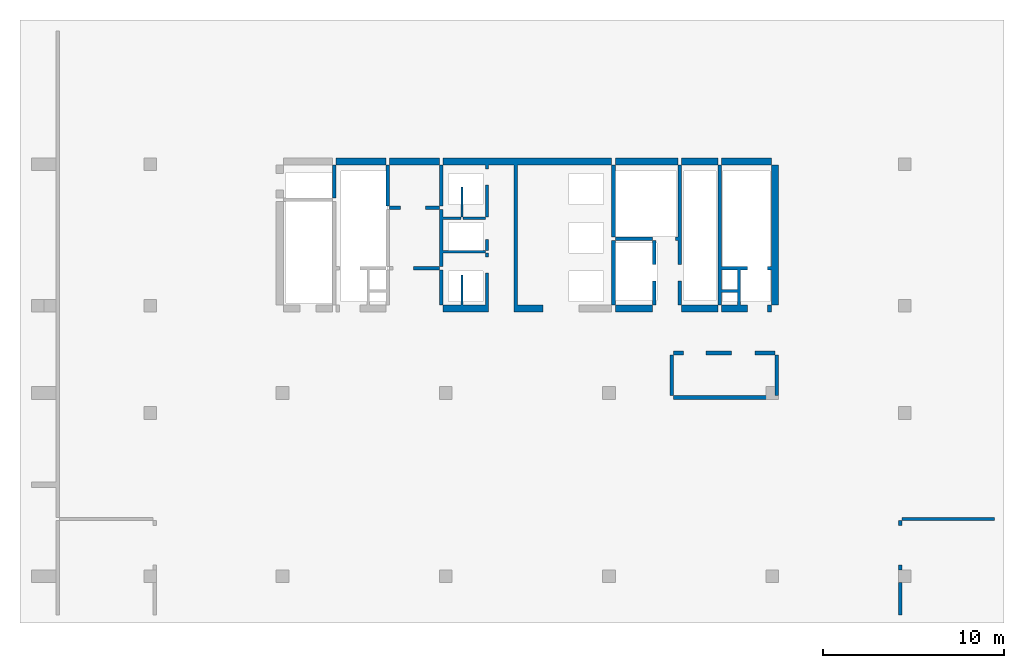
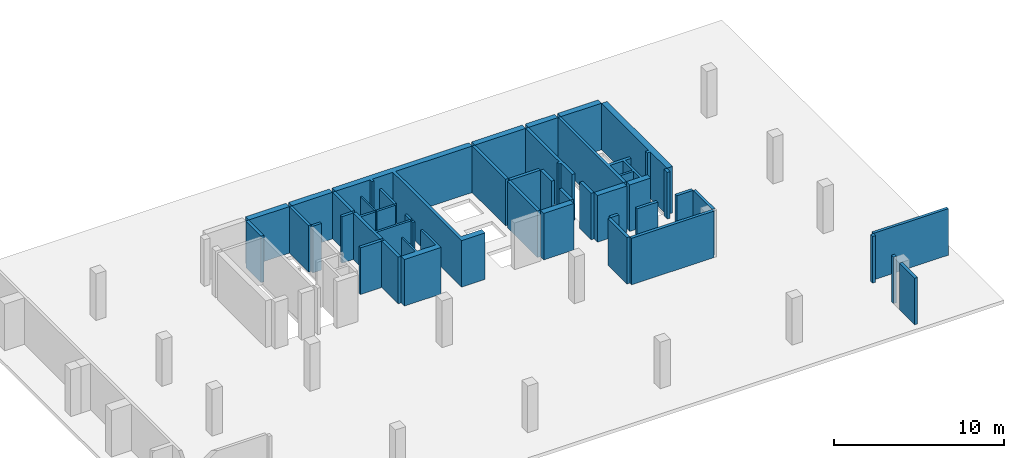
# One storey, part 2 of 2: 42 walls.
"""IFC4 building model written with IfcOpenShell, lengths in millimetres."""

from ifc_helpers import new_model, si_unit, frame, origin, place, context, project, spatial, triangles, element, save


model = new_model("IFC4")

# Units and contexts
model_context = context("Model", 3, precision=0.001, world=origin())
ifc_project = project(units=[si_unit("LENGTHUNIT", "METRE", prefix="MILLI"), si_unit("AREAUNIT", "SQUARE_METRE"), si_unit("VOLUMEUNIT", "CUBIC_METRE")], contexts=[model_context])

# Site, building, storey
site_placement = place(None, origin())
site = spatial("IfcSite", under=ifc_project, at=site_placement, Name="Site", CompositionType="ELEMENT")
building_placement = place(site_placement, origin())
building = spatial("IfcBuilding", under=site, at=building_placement, Name="INNOCEAN", CompositionType="ELEMENT")
storey_placement = place(building_placement, frame((0.0, 0.0, -23400.0)))
storey = spatial("IfcBuildingStorey", under=building, at=storey_placement, Name="B6", CompositionType="ELEMENT", Elevation=-23400.0)

# Walls
wall_1_placement = place(storey_placement, origin())
element("IfcWall", 1, at=wall_1_placement, inside=storey, Name="B6_Walls_B6_015", context=model_context, shape_type="Tessellation", body=[
    triangles([(16429.3, 23222.2, 0.0), (16429.3, 25025.8, 0.0), (16429.3, 25025.8, 3350.0), (16429.3, 23222.2, 3350.0), (16226.2, 23222.2, 0.0), (16226.2, 23222.2, 3350.0), (16226.2, 25025.8, 0.0), (16226.2, 25025.8, 3350.0)], [[1, 2, 3], [1, 3, 4], [5, 1, 4], [5, 4, 6], [7, 5, 6], [7, 6, 8], [2, 7, 8], [2, 8, 3], [7, 2, 1], [7, 1, 5], [3, 8, 4], [4, 8, 6]], closed=True),
])
wall_2_placement = place(storey_placement, origin())
element("IfcWall", 2, at=wall_2_placement, inside=storey, Name="B6_Walls_B6_018", context=model_context, shape_type="Tessellation", body=[
    triangles([(19183.7, 25419.5, 0.0), (16429.3, 25419.5, 0.0), (16429.3, 25419.5, 3350.0), (19183.7, 25419.5, 3350.0), (19183.7, 25025.8, 0.0), (19183.7, 25025.8, 3350.0), (16429.3, 25025.8, 0.0), (16429.3, 25025.8, 3350.0)], [[1, 2, 3], [1, 3, 4], [5, 1, 4], [5, 4, 6], [7, 5, 6], [7, 6, 8], [2, 7, 8], [2, 8, 3], [2, 1, 5], [2, 5, 7], [4, 3, 6], [6, 3, 8]], closed=True),
])
wall_3_placement = place(storey_placement, origin())
element("IfcWall", 3, at=wall_3_placement, inside=storey, Name="B6_Walls_B6_019", context=model_context, shape_type="Tessellation", body=[
    triangles([(23423.2, 18967.3, 0.0), (23321.7, 18967.3, 0.0), (23321.7, 18967.3, 3350.0), (23423.2, 18967.3, 3350.0), (23423.2, 18965.0, 0.0), (23423.2, 18965.0, 3350.0), (23425.0, 18965.0, 0.0), (23425.0, 18965.0, 3350.0), (23425.0, 17316.1, 3350.0), (23425.0, 17316.1, 0.0), (24679.9, 17316.1, 0.0), (24679.9, 17316.1, 3350.0), (24679.9, 19068.9, 0.0), (24679.9, 19068.9, 3350.0), (24680.0, 19068.9, 3350.0), (24680.0, 19068.9, 0.0), (24680.0, 19070.0, 0.0), (24680.0, 19070.0, 3350.0), (24830.0, 19070.0, 0.0), (24830.0, 19070.0, 3350.0), (24830.0, 19068.9, 0.0), (24830.0, 19068.9, 3350.0), (24832.2, 19068.9, 3350.0), (24832.2, 19068.9, 0.0), (24832.2, 17316.1, 0.0), (24832.2, 17316.1, 3350.0), (24832.2, 16922.4, 0.0), (24832.2, 16922.4, 3350.0), (22331.6, 16922.4, 0.0), (22331.6, 16922.4, 3350.0), (22331.6, 17316.1, 0.0), (22331.6, 17316.1, 3350.0), (23320.0, 17316.1, 0.0), (23320.0, 17316.1, 3350.0), (23320.0, 18965.0, 3350.0), (23320.0, 18965.0, 0.0), (23321.7, 18965.0, 0.0), (23321.7, 18965.0, 3350.0)], [[1, 2, 3], [1, 3, 4], [5, 1, 4], [5, 4, 6], [7, 5, 6], [7, 6, 8], [7, 8, 9], [10, 7, 9], [11, 10, 9], [11, 9, 12], [13, 11, 12], [13, 12, 14], [13, 14, 15], [16, 13, 15], [17, 16, 15], [17, 15, 18], [19, 17, 18], [19, 18, 20], [21, 19, 20], [21, 20, 22], [21, 22, 23], [24, 21, 23], [25, 24, 23], [25, 23, 26], [27, 25, 26], [27, 26, 28], [29, 27, 28], [29, 28, 30], [31, 29, 30], [31, 30, 32], [33, 31, 32], [33, 32, 34], [33, 34, 35], [36, 33, 35], [37, 36, 35], [37, 35, 38], [2, 37, 38], [2, 38, 3], [11, 25, 27], [10, 11, 27], [21, 24, 25], [21, 25, 11], [16, 19, 21], [16, 21, 11], [13, 16, 11], [17, 19, 16], [29, 10, 27], [29, 33, 10], [31, 33, 29], [5, 7, 10], [5, 10, 33], [37, 1, 5], [37, 5, 33], [36, 37, 33], [2, 1, 37], [26, 12, 28], [12, 9, 28], [23, 22, 26], [26, 22, 12], [20, 15, 22], [22, 15, 12], [15, 14, 12], [20, 18, 15], [9, 30, 28], [34, 30, 9], [34, 32, 30], [8, 6, 9], [9, 6, 34], [4, 38, 6], [6, 38, 34], [38, 35, 34], [4, 3, 38]], closed=True),
])
wall_4_placement = place(storey_placement, origin())
element("IfcWall", 4, at=wall_4_placement, inside=storey, Name="B6_Walls_B6_020", context=model_context, shape_type="Tessellation", body=[
    triangles([(22331.6, 19246.7, 0.0), (22331.6, 19246.7, 3350.0), (22331.6, 17316.1, 3350.0), (22331.6, 17316.1, 0.0), (22128.5, 17316.1, 0.0), (22128.5, 17316.1, 3350.0), (22128.5, 19246.7, 3350.0), (22128.5, 19246.7, 0.0)], [[1, 2, 3], [4, 1, 3], [5, 4, 3], [5, 3, 6], [5, 6, 7], [8, 5, 7], [1, 8, 7], [1, 7, 2], [8, 1, 4], [8, 4, 5], [2, 7, 3], [3, 7, 6]], closed=True),
])
wall_5_placement = place(storey_placement, origin())
element("IfcWall", 5, at=wall_5_placement, inside=storey, Name="B6_Walls_B6_022", context=model_context, shape_type="Tessellation", body=[
    triangles([(22128.5, 19246.7, 0.0), (22128.5, 19449.9, 0.0), (22128.5, 19449.9, 3350.0), (22128.5, 19246.7, 3350.0), (20694.2, 19246.7, 0.0), (20694.2, 19246.7, 3350.0), (20694.2, 19449.9, 0.0), (20694.2, 19449.9, 3350.0)], [[1, 2, 3], [1, 3, 4], [5, 1, 4], [5, 4, 6], [7, 5, 6], [7, 6, 8], [2, 7, 8], [2, 8, 3], [7, 2, 1], [7, 1, 5], [3, 8, 4], [4, 8, 6]], closed=True),
])
wall_6_placement = place(storey_placement, origin())
element("IfcWall", 6, at=wall_6_placement, inside=storey, Name="B6_Walls_B6_023", context=model_context, shape_type="Tessellation", body=[
    triangles([(24679.9, 19970.7, 0.0), (24832.2, 19970.7, 0.0), (24832.2, 19970.7, 3350.0), (24679.9, 19970.7, 3350.0), (24679.9, 20173.9, 0.0), (24679.9, 20173.9, 3350.0), (24832.2, 20173.9, 0.0), (24832.2, 20173.9, 3350.0)], [[1, 2, 3], [1, 3, 4], [5, 1, 4], [5, 4, 6], [7, 5, 6], [7, 6, 8], [2, 7, 8], [2, 8, 3], [5, 2, 1], [5, 7, 2], [3, 6, 4], [8, 6, 3]], closed=True),
])
wall_7_placement = place(storey_placement, origin())
element("IfcWall", 7, at=wall_7_placement, inside=storey, Name="B6_Walls_B6_024", context=model_context, shape_type="Tessellation", body=[
    triangles([(22128.5, 22574.4, 0.0), (22128.5, 19449.9, 0.0), (22128.5, 19449.9, 3350.0), (22128.5, 22574.4, 3350.0), (22331.6, 22574.4, 0.0), (22331.6, 22574.4, 3350.0), (22331.6, 22168.0, 0.0), (22331.6, 22168.0, 3350.0), (23321.7, 22168.0, 3350.0), (23321.7, 22168.0, 0.0), (23321.7, 22015.6, 0.0), (23321.7, 22015.6, 3350.0), (22331.6, 22015.6, 3350.0), (22331.6, 22015.6, 0.0), (22331.6, 20326.3, 0.0), (22331.6, 20326.3, 3350.0), (24679.9, 20326.3, 0.0), (24679.9, 20326.3, 3350.0), (24679.9, 20173.9, 3350.0), (24679.9, 20173.9, 0.0), (22331.6, 20173.9, 0.0), (22331.6, 20173.9, 3350.0), (22331.6, 19449.9, 3350.0), (22331.6, 19449.9, 0.0)], [[1, 2, 3], [1, 3, 4], [5, 1, 4], [5, 4, 6], [7, 5, 6], [7, 6, 8], [7, 8, 9], [10, 7, 9], [11, 10, 9], [11, 9, 12], [11, 12, 13], [14, 11, 13], [15, 14, 13], [15, 13, 16], [17, 15, 16], [17, 16, 18], [17, 18, 19], [20, 17, 19], [21, 20, 19], [21, 19, 22], [21, 22, 23], [24, 21, 23], [2, 24, 23], [2, 23, 3], [21, 24, 2], [15, 17, 20], [15, 20, 21], [15, 21, 2], [14, 10, 11], [7, 10, 14], [1, 5, 7], [1, 14, 15], [1, 7, 14], [2, 1, 15], [23, 22, 3], [18, 16, 19], [19, 16, 22], [22, 16, 3], [9, 13, 12], [9, 8, 13], [6, 4, 8], [13, 4, 16], [8, 4, 13], [4, 3, 16]], closed=True),
])
wall_8_placement = place(storey_placement, origin())
element("IfcWall", 8, at=wall_8_placement, inside=storey, Name="B6_Walls_B6_025", context=model_context, shape_type="Tessellation", body=[
    triangles([(24679.9, 20326.3, 0.0), (24832.2, 20326.3, 0.0), (24832.2, 20326.3, 3350.0), (24679.9, 20326.3, 3350.0), (24679.9, 20923.3, 0.0), (24679.9, 20923.3, 3350.0), (24832.2, 20923.3, 0.0), (24832.2, 20923.3, 3350.0)], [[1, 2, 3], [1, 3, 4], [5, 1, 4], [5, 4, 6], [7, 5, 6], [7, 6, 8], [2, 7, 8], [2, 8, 3], [5, 2, 1], [5, 7, 2], [3, 6, 4], [8, 6, 3]], closed=True),
])
wall_9_placement = place(storey_placement, origin())
element("IfcWall", 9, at=wall_9_placement, inside=storey, Name="B6_Walls_B6_027", context=model_context, shape_type="Tessellation", body=[
    triangles([(23423.2, 22168.0, 0.0), (23423.2, 22168.0, 3350.0), (24679.9, 22168.0, 3350.0), (24679.9, 22168.0, 0.0), (24679.9, 22015.6, 0.0), (24679.9, 22015.6, 3350.0), (23423.2, 22015.6, 3350.0), (23423.2, 22015.6, 0.0)], [[1, 2, 3], [4, 1, 3], [5, 4, 3], [5, 3, 6], [5, 6, 7], [8, 5, 7], [1, 8, 7], [1, 7, 2], [1, 4, 5], [1, 5, 8], [3, 2, 6], [6, 2, 7]], closed=True),
])
wall_10_placement = place(storey_placement, origin())
element("IfcWall", 10, at=wall_10_placement, inside=storey, Name="B6_Walls_B6_028", context=model_context, shape_type="Tessellation", body=[
    triangles([(19970.7, 22574.4, 0.0), (19970.7, 22765.0, 0.0), (19970.7, 22765.0, 3350.0), (19970.7, 22574.4, 3350.0), (19374.1, 22574.4, 0.0), (19374.1, 22574.4, 3350.0), (19374.1, 22765.0, 0.0), (19374.1, 22765.0, 3350.0)], [[1, 2, 3], [1, 3, 4], [5, 1, 4], [5, 4, 6], [7, 5, 6], [7, 6, 8], [2, 7, 8], [2, 8, 3], [7, 2, 1], [7, 1, 5], [3, 8, 4], [4, 8, 6]], closed=True),
])
wall_11_placement = place(storey_placement, origin())
element("IfcWall", 11, at=wall_11_placement, inside=storey, Name="B6_Walls_B6_029", context=model_context, shape_type="Tessellation", body=[
    triangles([(22128.5, 22574.4, 0.0), (22128.5, 22765.0, 0.0), (22128.5, 22765.0, 3350.0), (22128.5, 22574.4, 3350.0), (21366.9, 22574.4, 0.0), (21366.9, 22574.4, 3350.0), (21366.9, 22765.0, 0.0), (21366.9, 22765.0, 3350.0)], [[1, 2, 3], [1, 3, 4], [5, 1, 4], [5, 4, 6], [7, 5, 6], [7, 6, 8], [2, 7, 8], [2, 8, 3], [7, 2, 1], [7, 1, 5], [3, 8, 4], [4, 8, 6]], closed=True),
])
wall_12_placement = place(storey_placement, origin())
element("IfcWall", 12, at=wall_12_placement, inside=storey, Name="B6_Walls_B6_030", context=model_context, shape_type="Tessellation", body=[
    triangles([(23423.2, 23819.2, 0.0), (23423.2, 23819.2, 3350.0), (23423.2, 22168.0, 3350.0), (23423.2, 22168.0, 0.0), (23321.7, 22168.0, 0.0), (23321.7, 22168.0, 3350.0), (23321.7, 23819.2, 3350.0), (23321.7, 23819.2, 0.0)], [[1, 2, 3], [4, 1, 3], [5, 4, 3], [5, 3, 6], [5, 6, 7], [8, 5, 7], [1, 8, 7], [1, 7, 2], [8, 1, 4], [8, 4, 5], [2, 7, 3], [3, 7, 6]], closed=True),
])
wall_13_placement = place(storey_placement, origin())
element("IfcWall", 13, at=wall_13_placement, inside=storey, Name="B6_Walls_B6_031", context=model_context, shape_type="Tessellation", body=[
    triangles([(19374.1, 22765.0, 0.0), (19374.1, 25025.8, 0.0), (19374.1, 25025.8, 3350.0), (19374.1, 22765.0, 3350.0), (19183.7, 22765.0, 0.0), (19183.7, 22765.0, 3350.0), (19183.7, 25025.8, 0.0), (19183.7, 25025.8, 3350.0)], [[1, 2, 3], [1, 3, 4], [5, 1, 4], [5, 4, 6], [7, 5, 6], [7, 6, 8], [2, 7, 8], [2, 8, 3], [7, 2, 1], [7, 1, 5], [3, 8, 4], [4, 8, 6]], closed=True),
])
wall_14_placement = place(storey_placement, origin())
element("IfcWall", 14, at=wall_14_placement, inside=storey, Name="B6_Walls_B6_032", context=model_context, shape_type="Tessellation", body=[
    triangles([(22331.6, 22765.0, 0.0), (22331.6, 25025.8, 0.0), (22331.6, 25025.8, 3350.0), (22331.6, 22765.0, 3350.0), (22128.5, 22765.0, 0.0), (22128.5, 22765.0, 3350.0), (22128.5, 25025.8, 0.0), (22128.5, 25025.8, 3350.0)], [[1, 2, 3], [1, 3, 4], [5, 1, 4], [5, 4, 6], [7, 5, 6], [7, 6, 8], [2, 7, 8], [2, 8, 3], [7, 2, 1], [7, 1, 5], [3, 8, 4], [4, 8, 6]], closed=True),
])
wall_15_placement = place(storey_placement, origin())
element("IfcWall", 15, at=wall_15_placement, inside=storey, Name="B6_Walls_B6_033", context=model_context, shape_type="Tessellation", body=[
    triangles([(24679.9, 24822.6, 0.0), (24832.2, 24822.6, 0.0), (24832.2, 24822.6, 3350.0), (24679.9, 24822.6, 3350.0), (24679.9, 25025.8, 0.0), (24679.9, 25025.8, 3350.0), (22331.6, 25025.8, 0.0), (22331.6, 25025.8, 3350.0), (22331.6, 25419.5, 0.0), (22331.6, 25419.5, 3350.0), (31623.1, 25419.5, 0.0), (31623.1, 25419.5, 3350.0), (31623.1, 25025.8, 0.0), (31623.1, 25025.8, 3350.0), (26431.5, 25025.8, 3350.0), (26431.5, 25025.8, 0.0), (26431.5, 17316.1, 0.0), (26431.5, 17316.1, 3350.0), (27827.8, 17316.1, 0.0), (27827.8, 17316.1, 3350.0), (27827.8, 17315.0, 0.0), (27827.8, 17315.0, 3350.0), (27830.0, 17315.0, 3350.0), (27830.0, 17315.0, 0.0), (27830.0, 16920.0, 0.0), (27830.0, 16920.0, 3350.0), (26230.0, 16920.0, 0.0), (26230.0, 16920.0, 3350.0), (26230.0, 16922.4, 0.0), (26230.0, 16922.4, 3350.0), (26228.4, 16922.4, 3350.0), (26228.4, 16922.4, 0.0), (26228.4, 17316.1, 0.0), (26228.4, 17316.1, 3350.0), (26228.4, 25025.8, 0.0), (26228.4, 25025.8, 3350.0), (24832.2, 25025.8, 0.0), (24832.2, 25025.8, 3350.0)], [[1, 2, 3], [1, 3, 4], [5, 1, 4], [5, 4, 6], [7, 5, 6], [7, 6, 8], [9, 7, 8], [9, 8, 10], [11, 9, 10], [11, 10, 12], [13, 11, 12], [13, 12, 14], [15, 13, 14], [16, 13, 15], [17, 16, 15], [17, 15, 18], [19, 17, 18], [19, 18, 20], [21, 19, 20], [21, 20, 22], [21, 22, 23], [24, 21, 23], [25, 24, 23], [25, 23, 26], [27, 25, 26], [27, 26, 28], [29, 27, 28], [29, 28, 30], [29, 30, 31], [32, 29, 31], [33, 32, 31], [33, 31, 34], [35, 33, 34], [35, 34, 36], [37, 35, 36], [37, 36, 38], [2, 37, 38], [2, 38, 3], [21, 24, 25], [17, 19, 21], [17, 25, 27], [17, 27, 29], [17, 21, 25], [33, 29, 32], [33, 17, 29], [16, 11, 13], [35, 16, 17], [35, 17, 33], [37, 2, 1], [5, 37, 1], [9, 5, 7], [9, 11, 16], [9, 16, 35], [9, 35, 37], [9, 37, 5], [23, 22, 26], [20, 18, 22], [26, 18, 28], [28, 18, 30], [22, 18, 26], [30, 34, 31], [18, 34, 30], [12, 15, 14], [15, 36, 18], [18, 36, 34], [3, 38, 4], [38, 6, 4], [6, 10, 8], [12, 10, 15], [15, 10, 36], [36, 10, 38], [38, 10, 6]], closed=True),
])
wall_16_placement = place(storey_placement, origin())
element("IfcWall", 16, at=wall_16_placement, inside=storey, Name="B6_Walls_B6_034", context=model_context, shape_type="Tessellation", body=[
    triangles([(22128.5, 25025.8, 0.0), (22128.5, 25419.5, 0.0), (22128.5, 25419.5, 3350.0), (22128.5, 25025.8, 3350.0), (19374.1, 25025.8, 0.0), (19374.1, 25025.8, 3350.0), (19374.1, 25419.5, 0.0), (19374.1, 25419.5, 3350.0)], [[1, 2, 3], [1, 3, 4], [5, 1, 4], [5, 4, 6], [7, 5, 6], [7, 6, 8], [2, 7, 8], [2, 8, 3], [7, 2, 1], [7, 1, 5], [3, 8, 4], [4, 8, 6]], closed=True),
])
wall_17_placement = place(storey_placement, origin())
element("IfcWall", 17, at=wall_17_placement, inside=storey, Name="B6_Walls_B6_035", context=model_context, shape_type="Tessellation", body=[
    triangles([(35024.8, 12324.5, 0.0), (35024.8, 14572.6, 0.0), (35024.8, 14572.6, 3350.0), (35024.8, 12324.5, 3350.0), (34821.8, 12324.5, 0.0), (34821.8, 12324.5, 3350.0), (34821.8, 14572.6, 0.0), (34821.8, 14572.6, 3350.0)], [[1, 2, 3], [1, 3, 4], [5, 1, 4], [5, 4, 6], [7, 5, 6], [7, 6, 8], [2, 7, 8], [2, 8, 3], [7, 2, 1], [7, 1, 5], [3, 8, 4], [4, 8, 6]], closed=True),
])
wall_18_placement = place(storey_placement, origin())
element("IfcWall", 18, at=wall_18_placement, inside=storey, Name="B6_Walls_B6_036", context=model_context, shape_type="Tessellation", body=[
    triangles([(35570.7, 14775.8, 0.0), (35024.8, 14775.8, 0.0), (35024.8, 14775.8, 3350.0), (35570.7, 14775.8, 3350.0), (35570.7, 14572.6, 3350.0), (35570.7, 14572.6, 0.0), (35024.8, 14572.6, 0.0), (35024.8, 14572.6, 3350.0)], [[1, 2, 3], [1, 3, 4], [1, 4, 5], [6, 1, 5], [7, 6, 5], [7, 5, 8], [7, 8, 3], [2, 7, 3], [2, 1, 6], [2, 6, 7], [4, 3, 5], [5, 3, 8]], closed=True),
])
wall_19_placement = place(storey_placement, origin())
element("IfcWall", 19, at=wall_19_placement, inside=storey, Name="B6_Walls_B6_037", context=model_context, shape_type="Tessellation", body=[
    triangles([(38225.0, 14575.0, 0.0), (38225.0, 14775.0, 0.0), (38225.0, 14775.0, 3350.0), (38225.0, 14575.0, 3350.0), (38223.5, 14575.0, 0.0), (38223.5, 14575.0, 3350.0), (38223.5, 14572.6, 0.0), (38223.5, 14572.6, 3350.0), (36814.6, 14572.6, 0.0), (36814.6, 14572.6, 3350.0), (36814.6, 14775.8, 3350.0), (36814.6, 14775.8, 0.0), (38223.5, 14775.8, 0.0), (38223.5, 14775.8, 3350.0), (38223.5, 14775.0, 0.0), (38223.5, 14775.0, 3350.0)], [[1, 2, 3], [1, 3, 4], [5, 1, 4], [5, 4, 6], [7, 5, 6], [7, 6, 8], [9, 7, 8], [9, 8, 10], [9, 10, 11], [12, 9, 11], [13, 12, 11], [13, 11, 14], [15, 13, 14], [15, 14, 16], [2, 15, 16], [2, 16, 3], [15, 2, 1], [15, 1, 5], [9, 5, 7], [12, 13, 15], [12, 15, 5], [12, 5, 9], [3, 16, 4], [4, 16, 6], [6, 10, 8], [14, 11, 16], [16, 11, 6], [6, 11, 10]], closed=True),
])
wall_20_placement = place(storey_placement, origin())
element("IfcWall", 20, at=wall_20_placement, inside=storey, Name="B6_Walls_B6_039", context=model_context, shape_type="Tessellation", body=[
    triangles([(33869.8, 16922.4, 0.0), (33869.8, 17316.1, 0.0), (33869.8, 17316.1, 3350.0), (33869.8, 16922.4, 3350.0), (31826.2, 16922.4, 0.0), (31826.2, 16922.4, 3350.0), (31826.2, 17316.1, 0.0), (31826.2, 17316.1, 3350.0)], [[1, 2, 3], [1, 3, 4], [5, 1, 4], [5, 4, 6], [7, 5, 6], [7, 6, 8], [2, 7, 8], [2, 8, 3], [7, 2, 1], [7, 1, 5], [3, 8, 4], [4, 8, 6]], closed=True),
])
wall_21_placement = place(storey_placement, origin())
element("IfcWall", 21, at=wall_21_placement, inside=storey, Name="B6_Walls_B6_040", context=model_context, shape_type="Tessellation", body=[
    triangles([(37474.6, 16922.4, 0.0), (37474.6, 17316.1, 0.0), (37474.6, 17316.1, 3350.0), (37474.6, 16922.4, 3350.0), (35469.1, 16922.4, 0.0), (35469.1, 16922.4, 3350.0), (35469.1, 17316.1, 0.0), (35469.1, 17316.1, 3350.0)], [[1, 2, 3], [1, 3, 4], [5, 1, 4], [5, 4, 6], [7, 5, 6], [7, 6, 8], [2, 7, 8], [2, 8, 3], [7, 2, 1], [7, 1, 5], [3, 8, 4], [4, 8, 6]], closed=True),
])
wall_22_placement = place(storey_placement, origin())
element("IfcWall", 22, at=wall_22_placement, inside=storey, Name="B6_Walls_B6_041", context=model_context, shape_type="Tessellation", body=[
    triangles([(34072.9, 18649.7, 0.0), (33869.8, 18649.7, 0.0), (33869.8, 18649.7, 3350.0), (34072.9, 18649.7, 3350.0), (34072.9, 17316.1, 0.0), (34072.9, 17316.1, 3350.0), (33869.8, 17316.1, 0.0), (33869.8, 17316.1, 3350.0)], [[1, 2, 3], [1, 3, 4], [5, 1, 4], [5, 4, 6], [7, 5, 6], [7, 6, 8], [2, 7, 8], [2, 8, 3], [2, 1, 5], [2, 5, 7], [4, 3, 6], [6, 3, 8]], closed=True),
])
wall_23_placement = place(storey_placement, origin())
element("IfcWall", 23, at=wall_23_placement, inside=storey, Name="B6_Walls_B6_042", context=model_context, shape_type="Tessellation", body=[
    triangles([(35469.1, 17316.1, 0.0), (35469.1, 18649.7, 0.0), (35469.1, 18649.7, 3350.0), (35469.1, 17316.1, 3350.0), (35266.0, 17316.1, 0.0), (35266.0, 17316.1, 3350.0), (35266.0, 18649.7, 0.0), (35266.0, 18649.7, 3350.0)], [[1, 2, 3], [1, 3, 4], [5, 1, 4], [5, 4, 6], [7, 5, 6], [7, 6, 8], [2, 7, 8], [2, 8, 3], [7, 2, 1], [7, 1, 5], [3, 8, 4], [4, 8, 6]], closed=True),
])
wall_24_placement = place(storey_placement, origin())
element("IfcWall", 24, at=wall_24_placement, inside=storey, Name="B6_Walls_B6_043", context=model_context, shape_type="Tessellation", body=[
    triangles([(37474.6, 19449.9, 0.0), (37474.6, 17316.1, 0.0), (37474.6, 17316.1, 3350.0), (37474.6, 19449.9, 3350.0), (37665.0, 17316.1, 0.0), (37665.0, 17316.1, 3350.0), (37665.0, 16922.4, 0.0), (37665.0, 16922.4, 3350.0), (39099.4, 16922.4, 0.0), (39099.4, 16922.4, 3350.0), (39099.4, 17316.1, 0.0), (39099.4, 17316.1, 3350.0), (38720.0, 17316.1, 0.0), (38720.0, 17316.1, 3350.0), (38720.0, 19245.0, 0.0), (38720.0, 19245.0, 3350.0), (39100.0, 19245.0, 0.0), (39100.0, 19245.0, 3350.0), (39100.0, 19450.0, 0.0), (39100.0, 19450.0, 3350.0), (37665.0, 19450.0, 0.0), (37665.0, 19450.0, 3350.0), (37665.0, 25025.8, 0.0), (37665.0, 25025.8, 3350.0), (37474.6, 25025.8, 0.0), (37474.6, 25025.8, 3350.0), (37665.0, 18014.7, 0.0), (37665.0, 18014.7, 3350.0), (38565.0, 18014.7, 0.0), (38565.0, 18014.7, 3350.0), (38565.0, 17316.1, 0.0), (38565.0, 17316.1, 3350.0), (37665.0, 18167.1, 0.0), (37665.0, 18167.1, 3350.0), (38565.0, 18167.1, 3350.0), (38565.0, 18167.1, 0.0), (37665.0, 19245.0, 0.0), (37665.0, 19245.0, 3350.0), (38565.0, 19245.0, 0.0), (38565.0, 19245.0, 3350.0)], [[1, 2, 3], [1, 3, 4], [2, 5, 6], [2, 6, 3], [5, 7, 8], [5, 8, 6], [7, 9, 10], [7, 10, 8], [9, 11, 12], [9, 12, 10], [11, 13, 14], [11, 14, 12], [13, 15, 16], [13, 16, 14], [15, 17, 18], [15, 18, 16], [19, 20, 18], [17, 19, 18], [19, 21, 22], [19, 22, 20], [21, 23, 24], [21, 24, 22], [23, 25, 26], [23, 26, 24], [25, 1, 4], [25, 4, 26], [5, 27, 28], [5, 28, 6], [29, 30, 28], [27, 29, 28], [29, 31, 32], [29, 32, 30], [5, 6, 32], [31, 5, 32], [33, 34, 35], [36, 33, 35], [33, 37, 38], [33, 38, 34], [39, 40, 38], [37, 39, 38], [39, 36, 35], [39, 35, 40], [13, 11, 9], [31, 13, 9], [7, 31, 9], [29, 13, 31], [5, 31, 7], [27, 5, 2], [33, 29, 27], [33, 36, 29], [33, 27, 2], [15, 19, 17], [39, 15, 36], [39, 19, 15], [21, 39, 37], [21, 19, 39], [1, 37, 33], [1, 21, 37], [1, 33, 2], [25, 23, 21], [25, 21, 1], [15, 13, 29], [15, 29, 36], [12, 14, 10], [14, 32, 10], [32, 8, 10], [14, 30, 32], [32, 6, 8], [6, 28, 3], [30, 34, 28], [35, 34, 30], [28, 34, 3], [20, 16, 18], [16, 40, 35], [20, 40, 16], [40, 22, 38], [20, 22, 40], [38, 4, 34], [22, 4, 38], [34, 4, 3], [24, 26, 22], [22, 26, 4], [14, 16, 30], [30, 16, 35]], closed=True),
])
wall_25_placement = place(storey_placement, origin())
element("IfcWall", 25, at=wall_25_placement, inside=storey, Name="B6_Walls_B6_044", context=model_context, shape_type="Tessellation", body=[
    triangles([(31826.2, 20872.5, 0.0), (31623.1, 20872.5, 0.0), (31623.1, 20872.5, 3350.0), (31826.2, 20872.5, 3350.0), (31826.2, 17316.1, 3350.0), (31826.2, 17316.1, 0.0), (31623.1, 17316.1, 0.0), (31623.1, 17316.1, 3350.0)], [[1, 2, 3], [1, 3, 4], [5, 1, 4], [6, 1, 5], [7, 6, 5], [7, 5, 8], [3, 7, 8], [2, 7, 3], [2, 1, 6], [2, 6, 7], [4, 3, 5], [5, 3, 8]], closed=True),
])
wall_26_placement = place(storey_placement, origin())
element("IfcWall", 26, at=wall_26_placement, inside=storey, Name="B6_Walls_B6_045", context=model_context, shape_type="Tessellation", body=[
    triangles([(34072.9, 19551.5, 0.0), (34072.9, 20872.5, 0.0), (34072.9, 20872.5, 3350.0), (34072.9, 19551.5, 3350.0), (33869.8, 19551.5, 0.0), (33869.8, 19551.5, 3350.0), (33869.8, 20872.5, 0.0), (33869.8, 20872.5, 3350.0)], [[1, 2, 3], [1, 3, 4], [5, 1, 4], [5, 4, 6], [7, 5, 6], [7, 6, 8], [2, 7, 8], [2, 8, 3], [7, 2, 1], [7, 1, 5], [3, 8, 4], [4, 8, 6]], closed=True),
])
wall_27_placement = place(storey_placement, origin())
element("IfcWall", 27, at=wall_27_placement, inside=storey, Name="B6_Walls_B6_046", context=model_context, shape_type="Tessellation", body=[
    triangles([(35126.4, 21075.7, 0.0), (35126.4, 20872.5, 0.0), (35126.4, 20872.5, 3350.0), (35126.4, 21075.7, 3350.0), (35266.0, 21075.7, 0.0), (35266.0, 21075.7, 3350.0), (35266.0, 25025.8, 3350.0), (35266.0, 25025.8, 0.0), (35469.1, 25025.8, 0.0), (35469.1, 25025.8, 3350.0), (35469.1, 21075.7, 3350.0), (35469.1, 21075.7, 0.0), (35469.1, 20872.5, 0.0), (35469.1, 20872.5, 3350.0), (35469.1, 19551.5, 0.0), (35469.1, 19551.5, 3350.0), (35266.0, 19551.5, 0.0), (35266.0, 19551.5, 3350.0), (35266.0, 20872.5, 0.0), (35266.0, 20872.5, 3350.0)], [[1, 2, 3], [1, 3, 4], [5, 1, 4], [5, 4, 6], [7, 5, 6], [8, 5, 7], [9, 8, 7], [9, 7, 10], [11, 9, 10], [12, 9, 11], [13, 12, 11], [13, 11, 14], [15, 13, 14], [15, 14, 16], [17, 15, 16], [17, 16, 18], [19, 17, 18], [19, 18, 20], [2, 19, 20], [2, 20, 3], [19, 13, 15], [19, 15, 17], [12, 13, 19], [5, 12, 19], [1, 19, 2], [1, 5, 19], [8, 9, 12], [8, 12, 5], [14, 20, 16], [16, 20, 18], [14, 11, 20], [11, 6, 20], [20, 4, 3], [6, 4, 20], [10, 7, 11], [11, 7, 6]], closed=True),
])
wall_28_placement = place(storey_placement, origin())
element("IfcWall", 28, at=wall_28_placement, inside=storey, Name="B6_Walls_B6_047", context=model_context, shape_type="Tessellation", body=[
    triangles([(33869.8, 21075.7, 0.0), (31826.2, 21075.7, 0.0), (31826.2, 21075.7, 3350.0), (33869.8, 21075.7, 3350.0), (33869.8, 20872.5, 0.0), (33869.8, 20872.5, 3350.0), (31826.2, 20872.5, 0.0), (31826.2, 20872.5, 3350.0)], [[1, 2, 3], [1, 3, 4], [5, 1, 4], [5, 4, 6], [7, 5, 6], [7, 6, 8], [2, 7, 8], [2, 8, 3], [2, 1, 5], [2, 5, 7], [4, 3, 6], [6, 3, 8]], closed=True),
])
wall_29_placement = place(storey_placement, origin())
element("IfcWall", 29, at=wall_29_placement, inside=storey, Name="B6_Walls_B6_048", context=model_context, shape_type="Tessellation", body=[
    triangles([(24832.2, 22168.0, 0.0), (24832.2, 23920.8, 0.0), (24832.2, 23920.8, 3350.0), (24832.2, 22168.0, 3350.0), (24679.9, 22168.0, 0.0), (24679.9, 22168.0, 3350.0), (24679.9, 23920.8, 0.0), (24679.9, 23920.8, 3350.0)], [[1, 2, 3], [1, 3, 4], [5, 1, 4], [5, 4, 6], [7, 5, 6], [7, 6, 8], [2, 7, 8], [2, 8, 3], [2, 1, 5], [7, 2, 5], [4, 3, 6], [3, 8, 6]], closed=True),
])
wall_30_placement = place(storey_placement, origin())
element("IfcWall", 30, at=wall_30_placement, inside=storey, Name="B6_Walls_B6_049", context=model_context, shape_type="Tessellation", body=[
    triangles([(31826.2, 21075.7, 3350.0), (31826.2, 25025.8, 0.0), (31826.2, 25025.8, 3350.0), (31826.2, 21075.7, 0.0), (31623.1, 21075.7, 0.0), (31623.1, 21075.7, 3350.0), (31623.1, 25025.8, 3350.0), (31623.1, 25025.8, 0.0)], [[1, 2, 3], [4, 2, 1], [5, 4, 1], [5, 1, 6], [7, 5, 6], [8, 5, 7], [2, 8, 7], [2, 7, 3], [2, 4, 5], [8, 2, 5], [1, 3, 6], [3, 7, 6]], closed=True),
])
wall_31_placement = place(storey_placement, origin())
element("IfcWall", 31, at=wall_31_placement, inside=storey, Name="B6_Walls_B6_050", context=model_context, shape_type="Tessellation", body=[
    triangles([(35266.0, 25025.8, 0.0), (35266.0, 25419.5, 0.0), (35266.0, 25419.5, 3350.0), (35266.0, 25025.8, 3350.0), (31826.2, 25025.8, 3350.0), (31826.2, 25025.8, 0.0), (31826.2, 25419.5, 0.0), (31826.2, 25419.5, 3350.0)], [[1, 2, 3], [1, 3, 4], [5, 1, 4], [6, 1, 5], [7, 6, 5], [7, 5, 8], [3, 7, 8], [2, 7, 3], [7, 2, 1], [7, 1, 6], [3, 8, 4], [4, 8, 5]], closed=True),
])
wall_32_placement = place(storey_placement, origin())
element("IfcWall", 32, at=wall_32_placement, inside=storey, Name="B6_Walls_B6_051", context=model_context, shape_type="Tessellation", body=[
    triangles([(37474.6, 25025.8, 0.0), (37474.6, 25419.5, 0.0), (37474.6, 25419.5, 3350.0), (37474.6, 25025.8, 3350.0), (35469.1, 25025.8, 0.0), (35469.1, 25025.8, 3350.0), (35469.1, 25419.5, 0.0), (35469.1, 25419.5, 3350.0)], [[1, 2, 3], [1, 3, 4], [5, 1, 4], [5, 4, 6], [7, 5, 6], [7, 6, 8], [2, 7, 8], [2, 8, 3], [7, 2, 1], [7, 1, 5], [3, 8, 4], [4, 8, 6]], closed=True),
])
wall_33_placement = place(storey_placement, origin())
element("IfcWall", 33, at=wall_33_placement, inside=storey, Name="B6_Walls_B6_052", context=model_context, shape_type="Tessellation", body=[
    triangles([(47616.5, 2023.7, 0.0), (47413.4, 2023.7, 0.0), (47413.4, 2023.7, 3350.0), (47616.5, 2023.7, 3350.0), (47616.5, 220.2, 0.0), (47616.5, 220.2, 3350.0), (47413.4, 220.2, 0.0), (47413.4, 220.2, 3350.0)], [[1, 2, 3], [1, 3, 4], [5, 1, 4], [5, 4, 6], [7, 5, 6], [7, 6, 8], [2, 7, 8], [2, 8, 3], [2, 1, 5], [2, 5, 7], [4, 3, 6], [6, 3, 8]], closed=True),
])
wall_34_placement = place(storey_placement, origin())
element("IfcWall", 34, at=wall_34_placement, inside=storey, Name="B6_Walls_B6_053", context=model_context, shape_type="Tessellation", body=[
    triangles([(47616.5, 2722.3, 0.0), (47616.5, 2976.3, 0.0), (47616.5, 2976.3, 3350.0), (47616.5, 2722.3, 3350.0), (47413.4, 2722.3, 0.0), (47413.4, 2722.3, 3350.0), (47413.4, 2976.3, 0.0), (47413.4, 2976.3, 3350.0)], [[1, 2, 3], [1, 3, 4], [5, 1, 4], [5, 4, 6], [7, 5, 6], [7, 6, 8], [2, 7, 8], [2, 8, 3], [2, 1, 5], [7, 2, 5], [4, 3, 6], [3, 8, 6]], closed=True),
])
wall_35_placement = place(storey_placement, origin())
element("IfcWall", 35, at=wall_35_placement, inside=storey, Name="B6_Walls_B6_054", context=model_context, shape_type="Tessellation", body=[
    triangles([(47616.5, 5173.7, 0.0), (47616.5, 5427.7, 0.0), (47616.5, 5427.7, 3350.0), (47616.5, 5173.7, 3350.0), (47413.4, 5173.7, 0.0), (47413.4, 5173.7, 3350.0), (47413.4, 5427.7, 0.0), (47413.4, 5427.7, 3350.0)], [[1, 2, 3], [1, 3, 4], [5, 1, 4], [5, 4, 6], [7, 5, 6], [7, 6, 8], [2, 7, 8], [2, 8, 3], [2, 1, 5], [7, 2, 5], [4, 3, 6], [3, 8, 6]], closed=True),
])
wall_36_placement = place(storey_placement, origin())
element("IfcWall", 36, at=wall_36_placement, inside=storey, Name="B6_Walls_B6_055", context=model_context, shape_type="Tessellation", body=[
    triangles([(52706.5, 5618.2, 0.0), (47616.5, 5618.2, 0.0), (47616.5, 5618.2, 3350.0), (52706.5, 5618.2, 3350.0), (52706.5, 5427.7, 0.0), (52706.5, 5427.7, 3350.0), (47616.5, 5427.7, 0.0), (47616.5, 5427.7, 3350.0)], [[1, 2, 3], [1, 3, 4], [5, 1, 4], [5, 4, 6], [7, 5, 6], [7, 6, 8], [2, 7, 8], [2, 8, 3], [2, 1, 5], [2, 5, 7], [4, 3, 6], [6, 3, 8]], closed=True),
])
wall_37_placement = place(storey_placement, origin())
element("IfcWall", 37, at=wall_37_placement, inside=storey, Name="B6_Walls_B6_056", context=model_context, shape_type="Tessellation", body=[
    triangles([(40622.6, 12324.5, 0.0), (35024.8, 12324.5, 0.0), (35024.8, 12324.5, 3350.0), (40622.6, 12324.5, 3350.0), (40622.6, 12121.3, 0.0), (40622.6, 12121.3, 3350.0), (35024.8, 12121.3, 0.0), (35024.8, 12121.3, 3350.0)], [[1, 2, 3], [1, 3, 4], [5, 1, 4], [5, 4, 6], [7, 5, 6], [7, 6, 8], [2, 7, 8], [2, 8, 3], [2, 1, 5], [2, 5, 7], [4, 3, 6], [6, 3, 8]], closed=True),
])
wall_38_placement = place(storey_placement, origin())
element("IfcWall", 38, at=wall_38_placement, inside=storey, Name="B6_Walls_B6_057", context=model_context, shape_type="Tessellation", body=[
    triangles([(40622.6, 12324.5, 0.0), (40813.0, 12324.5, 0.0), (40813.0, 12324.5, 3350.0), (40622.6, 12324.5, 3350.0), (40622.6, 14572.6, 0.0), (40622.6, 14572.6, 3350.0), (40813.0, 14572.6, 0.0), (40813.0, 14572.6, 3350.0)], [[1, 2, 3], [1, 3, 4], [5, 1, 4], [5, 4, 6], [7, 5, 6], [7, 6, 8], [2, 7, 8], [2, 8, 3], [7, 2, 1], [5, 7, 1], [3, 8, 4], [8, 6, 4]], closed=True),
])
wall_39_placement = place(storey_placement, origin())
element("IfcWall", 39, at=wall_39_placement, inside=storey, Name="B6_Walls_B6_058", context=model_context, shape_type="Tessellation", body=[
    triangles([(40622.6, 14775.8, 0.0), (40622.6, 14775.8, 3350.0), (40622.6, 14572.6, 3350.0), (40622.6, 14572.6, 0.0), (39518.2, 14572.6, 3350.0), (39518.2, 14572.6, 0.0), (39518.2, 14775.8, 3350.0), (39518.2, 14775.8, 0.0)], [[1, 2, 3], [4, 1, 3], [4, 3, 5], [6, 4, 5], [6, 5, 7], [8, 6, 7], [8, 7, 2], [1, 8, 2], [8, 1, 4], [8, 4, 6], [2, 7, 3], [3, 7, 5]], closed=True),
])
wall_40_placement = place(storey_placement, origin())
element("IfcWall", 40, at=wall_40_placement, inside=storey, Name="B6_Walls_B6_059", context=model_context, shape_type="Tessellation", body=[
    triangles([(40419.5, 16922.4, 0.0), (40419.5, 17316.1, 0.0), (40419.5, 17316.1, 3350.0), (40419.5, 16922.4, 3350.0), (40216.4, 16922.4, 0.0), (40216.4, 16922.4, 3350.0), (40216.4, 17316.1, 0.0), (40216.4, 17316.1, 3350.0)], [[1, 2, 3], [1, 3, 4], [5, 1, 4], [5, 4, 6], [7, 5, 6], [7, 6, 8], [2, 7, 8], [2, 8, 3], [7, 2, 1], [7, 1, 5], [3, 8, 4], [4, 8, 6]], closed=True),
])
wall_41_placement = place(storey_placement, origin())
element("IfcWall", 41, at=wall_41_placement, inside=storey, Name="B6_Walls_B6_060", context=model_context, shape_type="Tessellation", body=[
    triangles([(40813.0, 19449.9, 0.0), (40813.0, 25025.8, 0.0), (40813.0, 25025.8, 3350.0), (40813.0, 19449.9, 3350.0), (40813.0, 17316.1, 0.0), (40813.0, 17316.1, 3350.0), (40419.5, 17316.1, 0.0), (40419.5, 17316.1, 3350.0), (40419.5, 19245.0, 0.0), (40419.5, 19245.0, 3350.0), (40215.0, 19245.0, 0.0), (40215.0, 19245.0, 3350.0), (40215.0, 19450.0, 3350.0), (40215.0, 19450.0, 0.0), (40419.5, 19450.0, 0.0), (40419.5, 19450.0, 3350.0), (40419.5, 25025.8, 0.0), (40419.5, 25025.8, 3350.0)], [[1, 2, 3], [1, 3, 4], [5, 1, 4], [5, 4, 6], [7, 5, 6], [7, 6, 8], [9, 7, 8], [9, 8, 10], [11, 9, 10], [11, 10, 12], [11, 12, 13], [14, 11, 13], [15, 14, 13], [15, 13, 16], [17, 15, 16], [17, 16, 18], [2, 17, 18], [2, 18, 3], [9, 1, 5], [9, 5, 7], [15, 1, 9], [14, 9, 11], [14, 15, 9], [2, 1, 15], [17, 2, 15], [4, 10, 6], [6, 10, 8], [4, 16, 10], [10, 13, 12], [16, 13, 10], [4, 3, 16], [3, 18, 16]], closed=True),
])
wall_42_placement = place(storey_placement, origin())
element("IfcWall", 42, at=wall_42_placement, inside=storey, Name="B6_Walls_B6_061", context=model_context, shape_type="Tessellation", body=[
    triangles([(40419.5, 25025.8, 0.0), (40419.5, 25419.5, 0.0), (40419.5, 25419.5, 3350.0), (40419.5, 25025.8, 3350.0), (37665.0, 25025.8, 0.0), (37665.0, 25025.8, 3350.0), (37665.0, 25419.5, 0.0), (37665.0, 25419.5, 3350.0)], [[1, 2, 3], [1, 3, 4], [5, 1, 4], [5, 4, 6], [7, 5, 6], [7, 6, 8], [2, 7, 8], [2, 8, 3], [7, 2, 1], [7, 1, 5], [3, 8, 4], [4, 8, 6]], closed=True),
])

save(model, "model.ifc")
